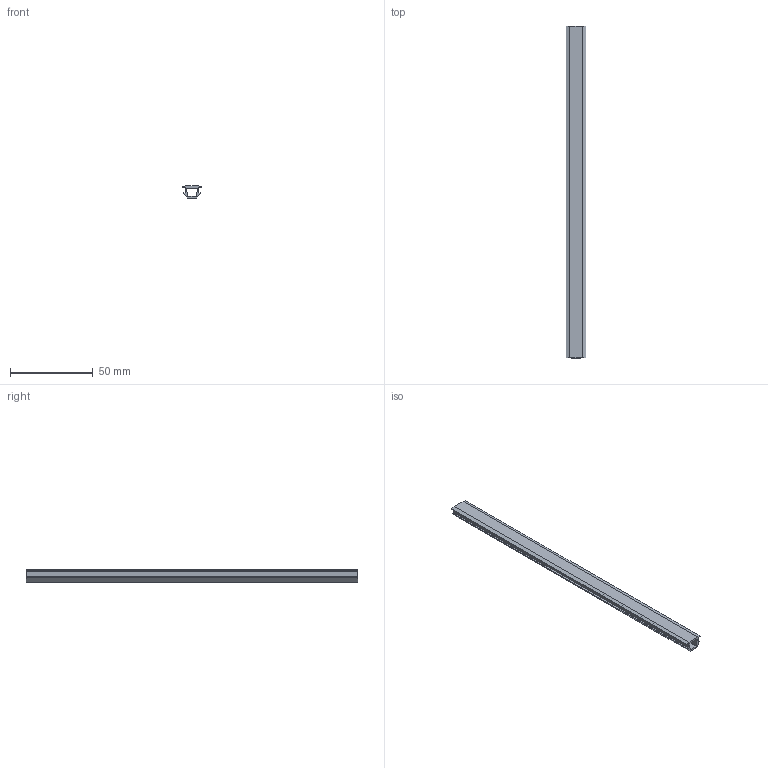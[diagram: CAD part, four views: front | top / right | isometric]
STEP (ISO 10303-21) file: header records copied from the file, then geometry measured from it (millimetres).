
FILE_DESCRIPTION (( 'STEP AP214' ), '1' );
FILE_NAME ('F50836.step', '2024-12-03T16:18:09', ( '' ), ( '' ), 'SwSTEP 2.0', 'SolidWorks 2023', '' );
FILE_SCHEMA (( 'AUTOMOTIVE_DESIGN' ));
Length unit declared in the file: millimetre
Products named in the file (1): F50836
Bounding box: 12 x 200 x 7.3 mm (x, y, z)
Volume: 6485.5 mm3; surface area: 12050.4 mm2
Topology: 1 solids, 1 shells, 28 faces, 78 edges, 52 vertices
Faces by surface type: plane 22, cylinder 6
Entity records: 921 total; most frequent: CARTESIAN_POINT 159, ORIENTED_EDGE 156, DIRECTION 148, EDGE_CURVE 78, VECTOR 66, LINE 66, VERTEX_POINT 52, AXIS2_PLACEMENT_3D 41
